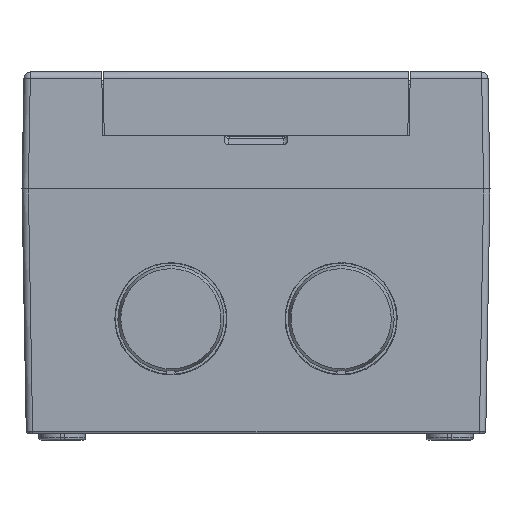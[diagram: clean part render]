
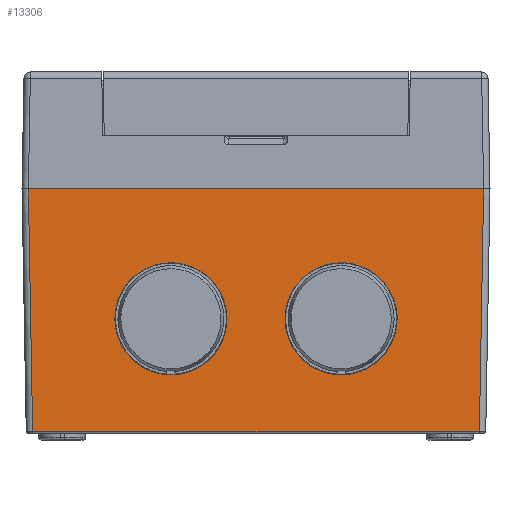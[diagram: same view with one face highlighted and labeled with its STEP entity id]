
A CAD part, front view. The second image highlights one B-rep face of the part: STEP entity #13306.
In plain terms, the highlighted planar face has unit normal (0, -1, -0.018).
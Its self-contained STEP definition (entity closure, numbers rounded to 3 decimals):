
#3546=ELLIPSE('',#41088,13.182,13.182);
#3600=ELLIPSE('',#41186,13.182,13.182);
#6526=PLANE('',#41187);
#8521=LINE('',#67283,#11115);
#8553=LINE('',#67417,#11147);
#8554=LINE('',#67419,#11148);
#8555=LINE('',#67421,#11149);
#11115=VECTOR('',#47969,1.);
#11147=VECTOR('',#48049,1.);
#11148=VECTOR('',#48050,1.);
#11149=VECTOR('',#48051,1.);
#13306=ADVANCED_FACE('',(#16196,#16197,#16198),#6526,.T.);
#16196=FACE_BOUND('',#17854,.T.);
#16197=FACE_BOUND('',#17855,.T.);
#16198=FACE_BOUND('',#17856,.T.);
#17854=EDGE_LOOP('',(#25883));
#17855=EDGE_LOOP('',(#25884));
#17856=EDGE_LOOP('',(#25885,#25886,#25887,#25888));
#25883=ORIENTED_EDGE('',*,*,#36639,.T.);
#25884=ORIENTED_EDGE('',*,*,#36400,.T.);
#25885=ORIENTED_EDGE('',*,*,#36640,.T.);
#25886=ORIENTED_EDGE('',*,*,#36641,.T.);
#25887=ORIENTED_EDGE('',*,*,#36642,.T.);
#25888=ORIENTED_EDGE('',*,*,#36583,.T.);
#31769=VERTEX_POINT('',#66884);
#31944=VERTEX_POINT('',#67282);
#31945=VERTEX_POINT('',#67284);
#31998=VERTEX_POINT('',#67416);
#31999=VERTEX_POINT('',#67418);
#32000=VERTEX_POINT('',#67420);
#36400=EDGE_CURVE('',#31769,#31769,#3546,.T.);
#36583=EDGE_CURVE('',#31945,#31944,#8521,.T.);
#36639=EDGE_CURVE('',#31998,#31998,#3600,.T.);
#36640=EDGE_CURVE('',#31944,#31999,#8553,.T.);
#36641=EDGE_CURVE('',#31999,#32000,#8554,.T.);
#36642=EDGE_CURVE('',#32000,#31945,#8555,.T.);
#41088=AXIS2_PLACEMENT_3D('',#66883,#47702,#47703);
#41186=AXIS2_PLACEMENT_3D('',#67415,#48047,#48048);
#41187=AXIS2_PLACEMENT_3D('',#67422,#48052,#48053);
#47702=DIRECTION('',(0.,1.,0.017));
#47703=DIRECTION('',(0.,0.017,-1.));
#47969=DIRECTION('',(-1.,0.,0.));
#48047=DIRECTION('',(0.,1.,0.017));
#48048=DIRECTION('',(0.,0.017,-1.));
#48049=DIRECTION('',(0.017,0.017,-1.));
#48050=DIRECTION('',(1.,0.,0.));
#48051=DIRECTION('',(0.017,-0.017,1.));
#48052=DIRECTION('',(0.,-1.,-0.017));
#48053=DIRECTION('',(0.,-0.017,1.));
#66883=CARTESIAN_POINT('',(-20.,-74.467,-42.518));
#66884=CARTESIAN_POINT('',(-20.,-74.237,-55.698));
#67282=CARTESIAN_POINT('',(-53.5,-75.,-12.));
#67283=CARTESIAN_POINT('',(0.,-75.,-12.));
#67284=CARTESIAN_POINT('',(53.5,-75.,-12.));
#67415=CARTESIAN_POINT('',(20.,-74.467,-42.518));
#67416=CARTESIAN_POINT('',(20.,-74.237,-55.698));
#67417=CARTESIAN_POINT('',(-53.484,-74.984,-12.933));
#67418=CARTESIAN_POINT('',(-52.505,-74.005,-69.009));
#67419=CARTESIAN_POINT('',(0.,-74.005,-69.009));
#67420=CARTESIAN_POINT('',(52.505,-74.005,-69.009));
#67421=CARTESIAN_POINT('',(53.484,-74.984,-12.933));
#67422=CARTESIAN_POINT('',(0.,-75.,-12.));
